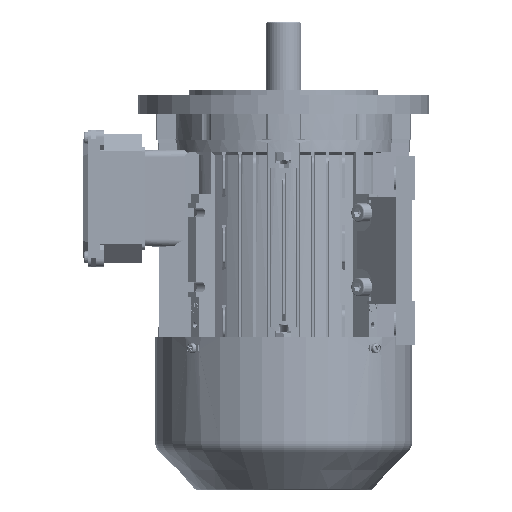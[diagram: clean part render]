
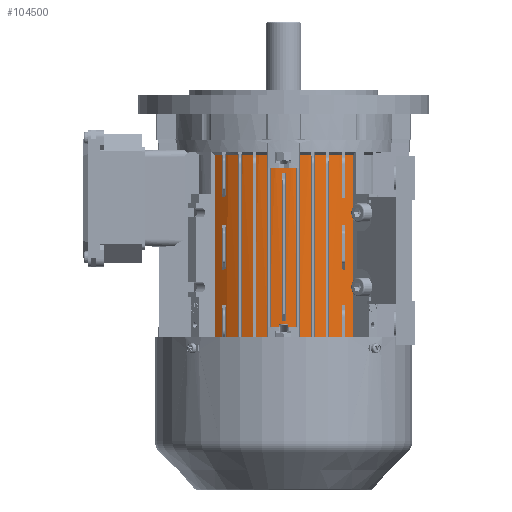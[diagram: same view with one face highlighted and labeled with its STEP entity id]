
A CAD part, left-side view. The second image highlights one B-rep face of the part: STEP entity #104500.
In plain terms, the highlighted cylindrical face has radius 71.192 mm (diameter 142.384 mm), a partial arc.
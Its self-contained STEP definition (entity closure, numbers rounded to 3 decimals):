
#1298 = EDGE_CURVE ( 'NONE', #69053, #93945, #109824, .T. ) ;
#1505 = CARTESIAN_POINT ( 'NONE',  ( 0., 0., -143.977 ) ) ;
#4398 = CARTESIAN_POINT ( 'NONE',  ( -53.089, -47.433, -143.977 ) ) ;
#5388 = AXIS2_PLACEMENT_3D ( 'NONE', #111024, #20990, #43562 ) ;
#6403 = DIRECTION ( 'NONE',  ( 1., 0., 0. ) ) ;
#6754 = CARTESIAN_POINT ( 'NONE',  ( -53.089, 47.433, 0. ) ) ;
#8730 = DIRECTION ( 'NONE',  ( 0., 0., 1. ) ) ;
#12886 = DIRECTION ( 'NONE',  ( 1., 0., 0. ) ) ;
#15700 = VERTEX_POINT ( 'NONE', #60219 ) ;
#16514 = AXIS2_PLACEMENT_3D ( 'NONE', #53229, #131969, #64511 ) ;
#17894 = CIRCLE ( 'NONE', #45833, 71.192 ) ;
#18120 = DIRECTION ( 'NONE',  ( 0., 0., -1. ) ) ;
#20990 = DIRECTION ( 'NONE',  ( 0., 0., 1. ) ) ;
#21335 = LINE ( 'NONE', #143507, #107604 ) ;
#24216 = ORIENTED_EDGE ( 'NONE', *, *, #138046, .T. ) ;
#43562 = DIRECTION ( 'NONE',  ( 1., 0., 0. ) ) ;
#43789 = AXIS2_PLACEMENT_3D ( 'NONE', #141166, #73734, #6403 ) ;
#45833 = AXIS2_PLACEMENT_3D ( 'NONE', #1505, #80180, #12886 ) ;
#45846 = CARTESIAN_POINT ( 'NONE',  ( -53.089, -47.433, -13.023 ) ) ;
#48001 = CARTESIAN_POINT ( 'NONE',  ( -53.089, 47.433, -13.023 ) ) ;
#48442 = ORIENTED_EDGE ( 'NONE', *, *, #137667, .F. ) ;
#53229 = CARTESIAN_POINT ( 'NONE',  ( 0., 0., -13.023 ) ) ;
#60219 = CARTESIAN_POINT ( 'NONE',  ( -71.192, 0., -143.977 ) ) ;
#61121 = CIRCLE ( 'NONE', #16514, 71.192 ) ;
#63995 = VERTEX_POINT ( 'NONE', #4398 ) ;
#64511 = DIRECTION ( 'NONE',  ( 1., 0., 0. ) ) ;
#68084 = EDGE_CURVE ( 'NONE', #93945, #15700, #17894, .T. ) ;
#69053 = VERTEX_POINT ( 'NONE', #48001 ) ;
#73734 = DIRECTION ( 'NONE',  ( 0., 0., 1. ) ) ;
#76649 = CYLINDRICAL_SURFACE ( 'NONE', #5388, 71.192 ) ;
#79800 = VECTOR ( 'NONE', #18120, 1000. ) ;
#80180 = DIRECTION ( 'NONE',  ( 0., 0., 1. ) ) ;
#88858 = VERTEX_POINT ( 'NONE', #45846 ) ;
#90105 = ORIENTED_EDGE ( 'NONE', *, *, #134978, .T. ) ;
#93945 = VERTEX_POINT ( 'NONE', #113135 ) ;
#96400 = EDGE_LOOP ( 'NONE', ( #48442, #109729, #144892, #24216, #90105 ) ) ;
#104500 = ADVANCED_FACE ( 'NONE', ( #136569 ), #76649, .T. ) ;
#107604 = VECTOR ( 'NONE', #8730, 1000. ) ;
#109729 = ORIENTED_EDGE ( 'NONE', *, *, #1298, .T. ) ;
#109824 = LINE ( 'NONE', #6754, #79800 ) ;
#111024 = CARTESIAN_POINT ( 'NONE',  ( 0., 0., 0. ) ) ;
#112166 = CIRCLE ( 'NONE', #43789, 71.192 ) ;
#113135 = CARTESIAN_POINT ( 'NONE',  ( -53.089, 47.433, -143.977 ) ) ;
#131969 = DIRECTION ( 'NONE',  ( 0., 0., 1. ) ) ;
#134978 = EDGE_CURVE ( 'NONE', #63995, #88858, #21335, .T. ) ;
#136569 = FACE_OUTER_BOUND ( 'NONE', #96400, .T. ) ;
#137667 = EDGE_CURVE ( 'NONE', #69053, #88858, #61121, .T. ) ;
#138046 = EDGE_CURVE ( 'NONE', #15700, #63995, #112166, .T. ) ;
#141166 = CARTESIAN_POINT ( 'NONE',  ( 0., 0., -143.977 ) ) ;
#143507 = CARTESIAN_POINT ( 'NONE',  ( -53.089, -47.433, 0. ) ) ;
#144892 = ORIENTED_EDGE ( 'NONE', *, *, #68084, .T. ) ;
